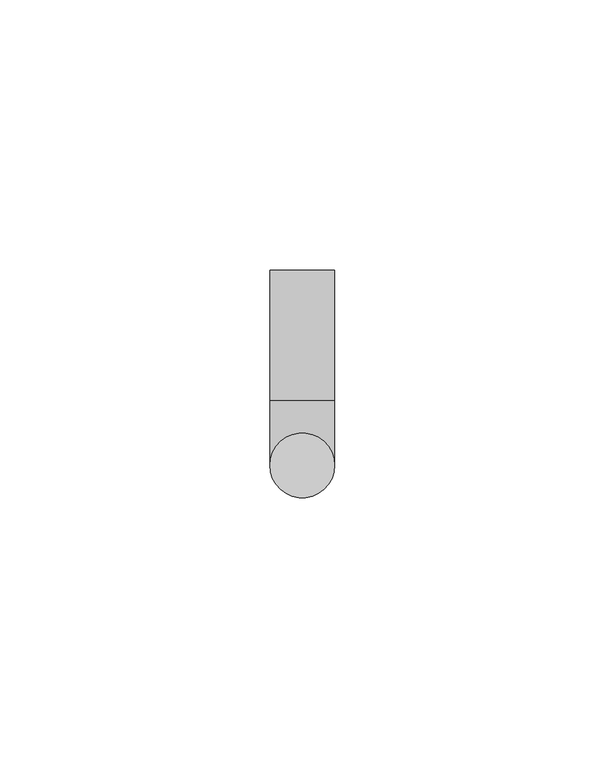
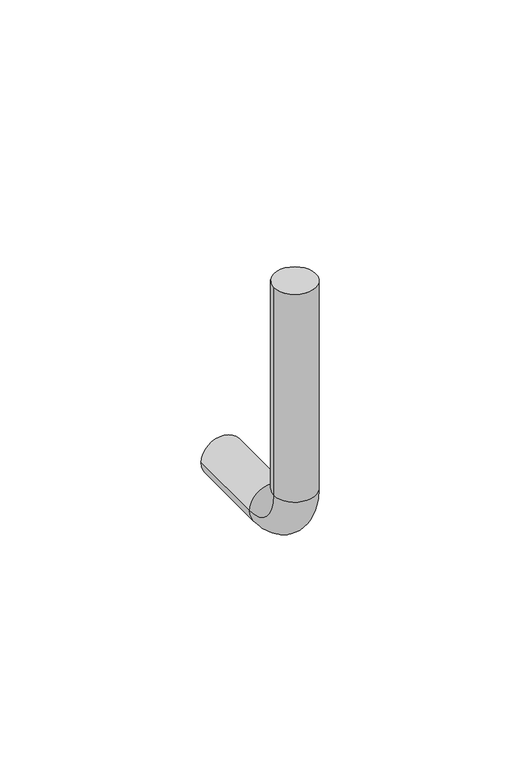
"""IFC4 building model written with IfcOpenShell, lengths in millimetres: proxy geometry, Soporte - Metal  : Soporte - Metal ."""

import ifcopenshell
import ifcopenshell.guid

model = None  # the IFC model being written
_history = None  # IfcOwnerHistory: only IFC2X3 demands one
_inside = {}  # id of a spatial element -> (the spatial element, [elements in it])
_under = {}  # id of a project, library or spatial element -> (it, [spatial elements below it])
_declared = {}  # id of a project -> (the project, [libraries it declares])
_typed = {}  # id of a type object -> (the type object, [elements of that type])
_made_of = {}  # id of a material, layer set ... -> (it, [elements and type objects made of it])


def new_model(schema):
    """Start an empty IFC model of exactly this schema.

    Asked for "IFC4X3", IfcOpenShell would pick the latest addendum, in which some entities
    have other attributes; the version numbers below select the first issue.
    IFC2X3 requires an IfcOwnerHistory on every rooted entity: one is made here for all.
    """
    global model, _history
    if schema == "IFC4X3":
        model = ifcopenshell.file(schema_version=(4, 3, 0, 0))
    else:
        model = ifcopenshell.file(schema=schema)
    _inside.clear()
    _under.clear()
    _declared.clear()
    _typed.clear()
    _made_of.clear()
    _history = None
    if model.schema == "IFC2X3":
        org = make("IfcOrganization", Name="unknown")
        user = make(
            "IfcPersonAndOrganization",
            ThePerson=make("IfcPerson", FamilyName="unknown"),
            TheOrganization=org,
        )
        app = make(
            "IfcApplication",
            ApplicationDeveloper=org,
            Version="unknown",
            ApplicationFullName="unknown",
            ApplicationIdentifier="unknown",
        )
        _history = make(
            "IfcOwnerHistory",
            OwningUser=user,
            OwningApplication=app,
            ChangeAction="ADDED",
            CreationDate=0,
        )
    return model


def make(cls, **values):
    """One entity of the class cls with the attributes given. An attribute that is None is left unset."""
    return model.create_entity(
        cls, **{name: value for name, value in values.items() if value is not None}
    )


def rooted(cls, **values):
    """An entity with a GlobalId (a new one), such as an element, a storey or a relation."""
    return make(cls, GlobalId=ifcopenshell.guid.new(), OwnerHistory=_history, **values)


def si_unit(unit_type, name, prefix=None):
    """IfcSIUnit, for example si_unit("LENGTHUNIT", "METRE", prefix="MILLI")."""
    return make("IfcSIUnit", UnitType=unit_type, Prefix=prefix, Name=name)


def assignment(units):
    """IfcUnitAssignment: the units of a project."""
    return None if units is None else make("IfcUnitAssignment", Units=units)


def point(xyz):
    """IfcCartesianPoint."""
    return None if xyz is None else make("IfcCartesianPoint", Coordinates=xyz)


def direction(xyz):
    """IfcDirection."""
    return None if xyz is None else make("IfcDirection", DirectionRatios=xyz)


def frame(location, z_axis=None, x_axis=None):
    """IfcAxis2Placement3D, a coordinate frame: its origin and axes. An axis left out is left unset."""
    return make(
        "IfcAxis2Placement3D",
        Location=point(location),
        Axis=direction(z_axis),
        RefDirection=direction(x_axis),
    )


def origin():
    """The frame at (0, 0, 0) with its axes left unset."""
    return frame((0.0, 0.0, 0.0))


def origin_with_axes():
    """The frame at (0, 0, 0) with the z axis (0, 0, 1) and the x axis (1, 0, 0) written out."""
    return frame((0.0, 0.0, 0.0), z_axis=(0.0, 0.0, 1.0), x_axis=(1.0, 0.0, 0.0))


def place(relative_to, where):
    """IfcLocalPlacement: puts the frame where relative to a parent placement (None: the world)."""
    return make(
        "IfcLocalPlacement", PlacementRelTo=relative_to, RelativePlacement=where
    )


def context(
    kind, dimensions, precision=None, world=None, true_north=None, identifier=None
):
    """IfcGeometricRepresentationContext, for example the 3D "Model" context."""
    return make(
        "IfcGeometricRepresentationContext",
        ContextIdentifier=identifier,
        ContextType=kind,
        CoordinateSpaceDimension=dimensions,
        Precision=precision,
        WorldCoordinateSystem=world,
        TrueNorth=true_north,
    )


def project(units=None, contexts=None):
    """IfcProject with its units and contexts."""
    return rooted(
        "IfcProject",
        Name="project",
        RepresentationContexts=contexts,
        UnitsInContext=assignment(units),
    )


def spatial(cls, under=None, at=None, **own):
    """A site, building, storey or space (cls), placed at a placement, below another one or the project."""
    s = rooted(cls, ObjectPlacement=at, **own)
    if under is not None:
        _under.setdefault(under.id(), (under, []))[1].append(s)
    return s


def circle_curve(where, radius):
    """IfcCircle in the frame where."""
    return make("IfcCircle", Position=where, Radius=radius)


def ellipse_curve(where, semi_axis1, semi_axis2):
    """IfcEllipse in the frame where."""
    return make(
        "IfcEllipse", Position=where, SemiAxis1=semi_axis1, SemiAxis2=semi_axis2
    )


def trimmed(basis, trim1, trim2, sense, master):
    """IfcTrimmedCurve: the piece of a basis curve between two trims."""
    return make(
        "IfcTrimmedCurve",
        BasisCurve=basis,
        Trim1=trim1,
        Trim2=trim2,
        SenseAgreement=sense,
        MasterRepresentation=master,
    )


def shape(context_of_items, identifier, shape_type, items):
    """IfcShapeRepresentation: the items that make up one representation, for example the "Body"."""
    return make(
        "IfcShapeRepresentation",
        ContextOfItems=context_of_items,
        RepresentationIdentifier=identifier,
        RepresentationType=shape_type,
        Items=items,
    )


def source(mapping_origin, context_of_items, identifier, shape_type, items):
    """IfcRepresentationMap: a shape defined once, which mapped items show again and again."""
    return make(
        "IfcRepresentationMap",
        MappingOrigin=mapping_origin,
        MappedRepresentation=shape(context_of_items, identifier, shape_type, items),
    )


def transform(
    local_origin,
    x_axis=None,
    y_axis=None,
    z_axis=None,
    scale=None,
    scale2=None,
    scale3=None,
    uniform=True,
):
    """IfcCartesianTransformationOperator3D, or its non-uniform kind. x_axis, y_axis, z_axis: its Axis1, 2, 3."""
    if uniform:
        return make(
            "IfcCartesianTransformationOperator3D",
            Axis1=direction(x_axis),
            Axis2=direction(y_axis),
            LocalOrigin=point(local_origin),
            Scale=scale,
            Axis3=direction(z_axis),
        )
    return make(
        "IfcCartesianTransformationOperator3DnonUniform",
        Axis1=direction(x_axis),
        Axis2=direction(y_axis),
        LocalOrigin=point(local_origin),
        Scale=scale,
        Axis3=direction(z_axis),
        Scale2=scale2,
        Scale3=scale3,
    )


def mapped(mapping_source, mapping_target):
    """IfcMappedItem: shows the shape of a source again, moved by a transform."""
    return make(
        "IfcMappedItem", MappingSource=mapping_source, MappingTarget=mapping_target
    )


def made_of(thing, what):
    """Note that an element or type object is made of a material, layer set ...; save() writes the relation."""
    if what is not None:
        _made_of.setdefault(what.id(), (what, []))[1].append(thing)
    return thing


def element(
    cls,
    number,
    at=None,
    inside=None,
    cuts=None,
    type_object=None,
    material=None,
    context=None,
    identifier="Body",
    shape_type=None,
    held_by="IfcProductDefinitionShape",
    body=None,
    shapes=None,
    **own,
):
    """One element of the class cls, such as IfcWall. Its Tag is "e" and its number.

    at: its placement. inside: the storey or other place that contains it. cuts: it is an
    opening in that element (IfcRelVoidsElement). A single representation is given by context,
    identifier, shape_type and body (its items); several are given by shapes. held_by: the class
    of the entity that holds the representations. save() writes the other relations.
    """
    e = rooted(cls, Tag="e%d" % number, ObjectPlacement=at, **own)
    if body is not None:
        shapes = [shape(context, identifier, shape_type, body)]
    if shapes is not None:
        e.Representation = make(held_by, Representations=shapes)
    if inside is not None:
        _inside.setdefault(inside.id(), (inside, []))[1].append(e)
    if cuts is not None:
        rooted(
            "IfcRelVoidsElement", RelatingBuildingElement=cuts, RelatedOpeningElement=e
        )
    if type_object is not None:
        _typed.setdefault(type_object.id(), (type_object, []))[1].append(e)
    return made_of(e, material)


def aggregate(whole, parts):
    """IfcRelAggregates: a whole, such as a stair, and the parts it consists of."""
    return rooted("IfcRelAggregates", RelatingObject=whole, RelatedObjects=parts)


def save(model, path):
    """Write the relations noted so far, then the file.

    IfcRelAggregates (storeys below a building ...), IfcRelContainedInSpatialStructure (elements
    in a storey), IfcRelDefinesByType, IfcRelAssociatesMaterial and IfcRelDeclares: one each for
    every whole, place, type object, material and project.
    """
    for whole, parts in _under.values():
        aggregate(whole, parts)
    for where, things in _inside.values():
        rooted(
            "IfcRelContainedInSpatialStructure",
            RelatedElements=things,
            RelatingStructure=where,
        )
    for kind, things in _typed.values():
        rooted("IfcRelDefinesByType", RelatedObjects=things, RelatingType=kind)
    for what, things in _made_of.values():
        rooted("IfcRelAssociatesMaterial", RelatedObjects=things, RelatingMaterial=what)
    for by, libraries in _declared.values():
        rooted("IfcRelDeclares", RelatingContext=by, RelatedDefinitions=libraries)
    model.write(path)


def plane_surface(at):
    """IfcPlane: the flat surface through the origin of the frame at, square to its z axis."""
    return make("IfcPlane", Position=at)


def cylinder_surface(at, radius):
    """IfcCylindricalSurface: all points at the distance radius from the z axis of the frame at."""
    return make("IfcCylindricalSurface", Position=at, Radius=radius)


def revolved_surface(curve, axis_point, axis_direction):
    """IfcSurfaceOfRevolution: the curve turned about the line through axis_point along axis_direction."""
    return make(
        "IfcSurfaceOfRevolution",
        SweptCurve=make("IfcArbitraryOpenProfileDef", ProfileType="CURVE", Curve=curve),
        AxisPosition=make("IfcAxis1Placement", Location=point(axis_point), Axis=direction(axis_direction)),
    )


def advanced_brep(points, edges, surfaces, faces):
    """IfcAdvancedBrep: a solid bounded by faces that lie on surfaces and meet in shared edges.

    An edge is (start, end): straight between two places in points (the first is 0);
    or (start, end, curve); or (start, end, curve, False) where it runs against its curve.
    A face is (place in surfaces, loops), or (place, loops, False) where it looks against
    its surface's normal. A loop lists edges by number (the first is 1), with a minus sign
    where the edge is run from its end to its start. The first loop is the outer one.
    """
    corners = [point(p) for p in points]
    vertices = [make("IfcVertexPoint", VertexGeometry=c) for c in corners]
    made = []
    for start, end, *more in edges:
        made.append(
            make(
                "IfcEdgeCurve",
                EdgeStart=vertices[start],
                EdgeEnd=vertices[end],
                EdgeGeometry=more[0] if more else make("IfcPolyline", Points=[corners[start], corners[end]]),
                SameSense=more[1] if len(more) > 1 else True,
            )
        )
    hull = []
    for where, loops, *sense in faces:
        bounds = []
        for j, loop in enumerate(loops):
            ring = [make("IfcOrientedEdge", EdgeElement=made[abs(k) - 1], Orientation=k > 0) for k in loop]
            bounds.append(
                make(
                    "IfcFaceOuterBound" if j == 0 else "IfcFaceBound",
                    Bound=make("IfcEdgeLoop", EdgeList=ring),
                    Orientation=True,
                )
            )
        hull.append(make("IfcAdvancedFace", Bounds=bounds, FaceSurface=surfaces[where], SameSense=sense[0] if sense else True))
    return make("IfcAdvancedBrep", Outer=make("IfcClosedShell", CfsFaces=hull))


def building_element_proxy_bf1cbc54(model_context):
    return source(origin(), model_context, "Body", "AdvancedBrep", [
        advanced_brep(
        [(-6.0, 0.0, 0.0), (6.0, 0.0, 0.0), (-6.0, 0.0, -63.0), (6.0, 0.0, -63.0), (6.0, 12.0, -75.0), (-6.0, 12.0, -75.0), (-6.0, 36.1556276, -75.0), (6.0, 36.1556276, -75.0)],
        [
            (0, 1, circle_curve(origin_with_axes(), 6.0)),
            (1, 0, circle_curve(origin_with_axes(), 6.0)),
            (0, 2),
            (2, 3, circle_curve(frame((0.0, 0.0, -63.0), z_axis=(0.0, 0.0, 1.0), x_axis=(1.0, 0.0, 0.0)), 6.0)),
            (3, 1),
            (3, 2, circle_curve(frame((0.0, 0.0, -63.0), z_axis=(0.0, 0.0, 1.0), x_axis=(1.0, 0.0, 0.0)), 6.0)),
            (4, 3, circle_curve(frame((6.0, 12.0, -63.0), z_axis=(-1.0, 0.0, 0.0), x_axis=(0.0, -1.0, 0.0)), 12.0)),
            (2, 5, circle_curve(frame((-6.0, 12.0, -63.0), z_axis=(1.0, 0.0, 0.0), x_axis=(0.0, -1.0, 0.0)), 12.0)),
            (5, 4, circle_curve(frame((0.0, 12.0, -75.0), z_axis=(0.0, -1.0, 0.0), x_axis=(1.0, 0.0, 0.0)), 6.0)),
            (4, 5, circle_curve(frame((0.0, 12.0, -75.0), z_axis=(0.0, -1.0, 0.0), x_axis=(1.0, 0.0, 0.0)), 6.0)),
            (6, 7, circle_curve(frame((0.0, 36.1556276, -75.0), z_axis=(0.0, 1.0, 0.0), x_axis=(1.0, 0.0, 0.0)), 6.0)),
            (7, 6, circle_curve(frame((0.0, 36.1556276, -75.0), z_axis=(0.0, 1.0, 0.0), x_axis=(1.0, 0.0, 0.0)), 6.0)),
            (5, 6),
            (7, 4),
        ],
        [
            plane_surface(origin_with_axes()),
            cylinder_surface(origin_with_axes(), 6.0),
            revolved_surface(trimmed(ellipse_curve(frame((0.0, 0.0, -63.0), z_axis=(0.0, 0.0, 1.0), x_axis=(1.0, 0.0, 0.0)), 6.0, 6.0), [point((-6.0, 0.0, -63.0))], [point((6.0, 0.0, -63.0))], True, "CARTESIAN"), (0.0, 12.0, -63.0), (1.0, 0.0, 0.0)),
            revolved_surface(trimmed(ellipse_curve(frame((0.0, 0.0, -63.0), z_axis=(0.0, 0.0, 1.0), x_axis=(1.0, 0.0, 0.0)), 6.0, 6.0), [point((6.0, 0.0, -63.0))], [point((-6.0, 0.0, -63.0))], True, "CARTESIAN"), (0.0, 12.0, -63.0), (1.0, 0.0, 0.0)),
            plane_surface(frame((0.0, 36.1556276, -75.0), z_axis=(0.0, 1.0, 0.0), x_axis=(1.0, 0.0, 0.0))),
            cylinder_surface(frame((0.0, 12.0, -75.0), z_axis=(0.0, -1.0, 0.0), x_axis=(1.0, 0.0, 0.0)), 6.0),
        ],
        [
            (0, [[1, 2]]),
            (1, [[-1, 3, 4, 5]]),
            (1, [[-2, -5, 6, -3]]),
            (2, [[7, -4, 8, 9]]),
            (3, [[-8, -6, -7, 10]]),
            (4, [[11, 12]]),
            (5, [[-9, 13, -12, 14]]),
            (5, [[-10, -14, -11, -13]]),
        ],
    ),
    ])


if __name__ == "__main__":
    model = new_model("IFC4")
    model_context = context("Model", 3, world=origin())
    ifc_project = project(units=[si_unit("LENGTHUNIT", "METRE", prefix="MILLI")], contexts=[model_context])
    site = spatial("IfcSite", under=ifc_project)
    building = spatial("IfcBuilding", under=site)
    placement = place(None, origin())
    building_element_proxy_shape = building_element_proxy_bf1cbc54(model_context)
    element("IfcBuildingElementProxy", 1, Name="Soporte - Metal  : Soporte - Metal ", ObjectType="Soporte - Metal  : Soporte - Metal ", at=placement, inside=building, context=model_context, shape_type="MappedRepresentation", body=[
        mapped(building_element_proxy_shape, transform((0.0, 0.0, 0.0), x_axis=(1.0, 0.0, 0.0), y_axis=(0.0, 1.0, 0.0), z_axis=(0.0, 0.0, 1.0))),
    ])
    save(model, "model.ifc")
